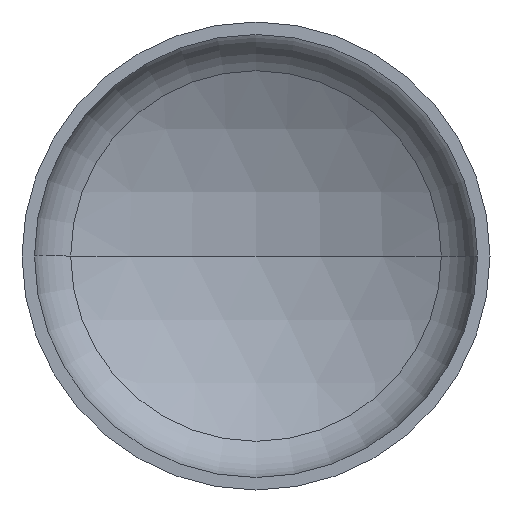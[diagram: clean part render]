
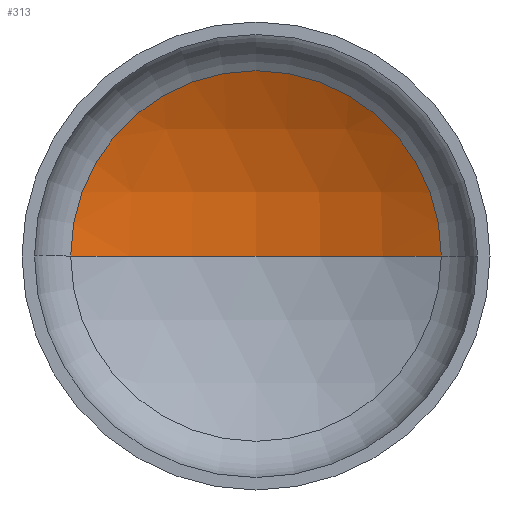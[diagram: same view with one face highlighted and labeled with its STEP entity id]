
A CAD part, front view. The second image highlights one B-rep face of the part: STEP entity #313.
In plain terms, the highlighted spherical face has radius 1200 mm.
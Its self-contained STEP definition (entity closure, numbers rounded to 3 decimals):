
#1 = CARTESIAN_POINT ( 'NONE',  ( -593.814, 319.866, 0. ) ) ;
#16 = AXIS2_PLACEMENT_3D ( 'NONE', #203, #27, #357 ) ;
#17 = DIRECTION ( 'NONE',  ( 0., 0., -1. ) ) ;
#19 = AXIS2_PLACEMENT_3D ( 'NONE', #128, #94, #303 ) ;
#21 = AXIS2_PLACEMENT_3D ( 'NONE', #40, #379, #229 ) ;
#25 = AXIS2_PLACEMENT_3D ( 'NONE', #222, #17, #142 ) ;
#27 = DIRECTION ( 'NONE',  ( 0., 0., 1. ) ) ;
#40 = CARTESIAN_POINT ( 'NONE',  ( 0., 319.866, 0. ) ) ;
#94 = DIRECTION ( 'NONE',  ( 0., 0., -1. ) ) ;
#128 = CARTESIAN_POINT ( 'NONE',  ( 0., -722.912, 0. ) ) ;
#131 = CARTESIAN_POINT ( 'NONE',  ( 0., 477.088, 0. ) ) ;
#136 = ORIENTED_EDGE ( 'NONE', *, *, #348, .T. ) ;
#142 = DIRECTION ( 'NONE',  ( -1., 0., 0. ) ) ;
#144 = ORIENTED_EDGE ( 'NONE', *, *, #345, .T. ) ;
#155 = VERTEX_POINT ( 'NONE', #1 ) ;
#177 = CIRCLE ( 'NONE', #16, 1200. ) ;
#178 = VERTEX_POINT ( 'NONE', #403 ) ;
#187 = FACE_OUTER_BOUND ( 'NONE', #338, .T. ) ;
#195 = ORIENTED_EDGE ( 'NONE', *, *, #349, .F. ) ;
#200 = SPHERICAL_SURFACE ( 'NONE', #25, 1200. ) ;
#203 = CARTESIAN_POINT ( 'NONE',  ( 0., -722.912, 0. ) ) ;
#209 = VERTEX_POINT ( 'NONE', #131 ) ;
#222 = CARTESIAN_POINT ( 'NONE',  ( 0., -722.912, 0. ) ) ;
#229 = DIRECTION ( 'NONE',  ( 1., 0., 0. ) ) ;
#255 = CIRCLE ( 'NONE', #19, 1200. ) ;
#303 = DIRECTION ( 'NONE',  ( -1., 0., 0. ) ) ;
#313 = ADVANCED_FACE ( 'NONE', ( #187 ), #200, .F. ) ;
#331 = CIRCLE ( 'NONE', #21, 593.814 ) ;
#338 = EDGE_LOOP ( 'NONE', ( #195, #136, #144 ) ) ;
#345 = EDGE_CURVE ( 'NONE', #178, #155, #331, .T. ) ;
#348 = EDGE_CURVE ( 'NONE', #209, #178, #255, .T. ) ;
#349 = EDGE_CURVE ( 'NONE', #209, #155, #177, .T. ) ;
#357 = DIRECTION ( 'NONE',  ( 1., 0., 0. ) ) ;
#379 = DIRECTION ( 'NONE',  ( 0., -1., 0. ) ) ;
#403 = CARTESIAN_POINT ( 'NONE',  ( 593.814, 319.866, 0. ) ) ;
